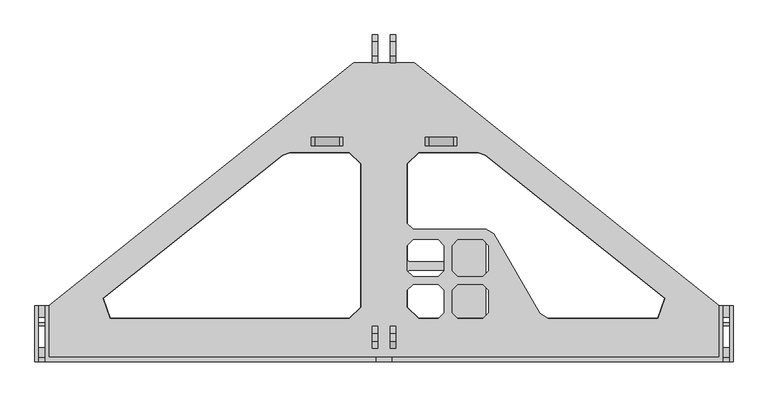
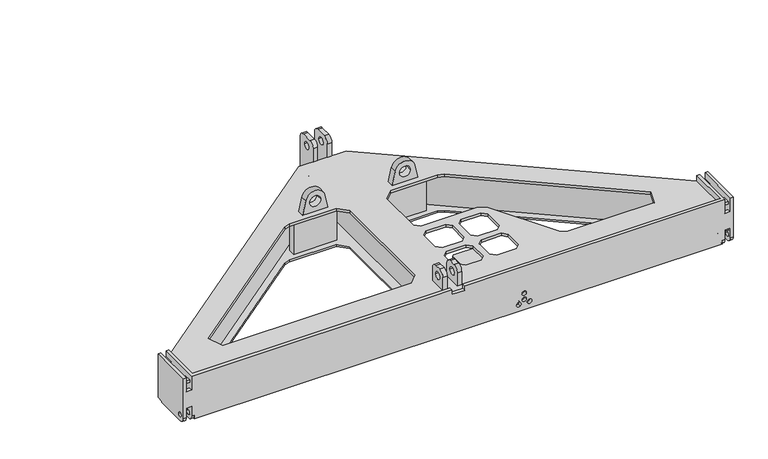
"""IFC4 building model written with IfcOpenShell, lengths in millimetres: proxy geometry, d&b SL-Series GSL Flying Frame : GSL Flying Frame."""

from ifc_helpers import new_model, si_unit, point, frame, frame_2d, origin, place, context, project, spatial, polyline, circle_curve, trimmed, segment, composite_curve, outline, extrude, source, transform, mapped, element, save
from ifc_brep_helpers import plane_surface, cylinder_surface, revolved_surface, advanced_brep


def communication_devices_4e83a63b(model_context):
    return source(origin(), model_context, "Body", "SolidModel", [
        extrude(outline(composite_curve([segment(polyline([(91.0, -130.7273729), (91.0, -73.2726271), (122.5260008, -79.9594343)]), True, "CONTINUOUS"), segment(trimmed(circle_curve(frame_2d((117.8510972, -102.0)), 22.5308956), [point((122.5260008, -79.9594343))], [point((122.5260008, -124.0405657))], False, "CARTESIAN"), True, "CONTINUOUS"), segment(polyline([(122.5260008, -124.0405657), (91.0, -130.7273729)]), True, "CONTINUOUS")], self_intersect=False), holes=[composite_curve([segment(trimmed(circle_curve(frame_2d((115.4363577, -102.0)), 12.4025698), [point((115.4363577, -114.4025698))], [point((115.4363577, -89.5974302))], True, "CARTESIAN"), True, "CONTINUOUS"), segment(trimmed(circle_curve(frame_2d((115.4363577, -102.0)), 12.4025698), [point((115.4363577, -89.5974302))], [point((115.4363577, -114.4025698))], True, "CARTESIAN"), True, "CONTINUOUS")], self_intersect=False)]), frame((0.0, 386.75, 0.0), z_axis=(0.0, 1.0, 0.0), x_axis=(0.0, 0.0, 1.0)), (0.0, 0.0, 1.0), 15.0),
        extrude(outline(composite_curve([segment(polyline([(91.0, 130.7273729), (122.5260008, 124.0405657)]), True, "CONTINUOUS"), segment(trimmed(circle_curve(frame_2d((117.8510972, 102.0)), 22.5308956), [point((122.5260008, 124.0405657))], [point((122.5260008, 79.9594343))], False, "CARTESIAN"), True, "CONTINUOUS"), segment(polyline([(122.5260008, 79.9594343), (91.0, 73.2726271), (91.0, 130.7273729)]), True, "CONTINUOUS")], self_intersect=False), holes=[composite_curve([segment(trimmed(circle_curve(frame_2d((115.4363577, 102.0)), 12.4025698), [point((115.4363577, 114.4025698))], [point((115.4363577, 89.5974302))], True, "CARTESIAN"), True, "CONTINUOUS"), segment(trimmed(circle_curve(frame_2d((115.4363577, 102.0)), 12.4025698), [point((115.4363577, 89.5974302))], [point((115.4363577, 114.4025698))], True, "CARTESIAN"), True, "CONTINUOUS")], self_intersect=False)]), frame((0.0, 386.75, 0.0), z_axis=(0.0, 1.0, 0.0), x_axis=(0.0, 0.0, 1.0)), (0.0, 0.0, 1.0), 15.0),
        extrude(outline(polyline([(44.2300761, 529.7976753), (587.9035494, 96.8494631), (584.7888141, 92.9381432), (41.1153407, 525.8863553), (44.2300761, 529.7976753)])), frame((0.0, 0.0, 4.0), z_axis=(0.0, 0.0, 1.0), x_axis=(1.0, 0.0, 0.0)), (0.0, 0.0, 1.0), 80.75),
        extrude(outline(polyline([(31.7711347, 514.1523955), (575.444608, 81.2041833), (572.3298727, 77.2928633), (28.6563994, 510.2410755), (31.7711347, 514.1523955)])), frame((0.0, 0.0, 4.0), z_axis=(0.0, 0.0, 1.0), x_axis=(1.0, 0.0, 0.0)), (0.0, 0.0, 1.0), 80.75),
        extrude(outline(polyline([(-44.2300761, 529.7976753), (-41.1153407, 525.8863553), (-584.7888141, 92.9381432), (-587.9035494, 96.8494631), (-44.2300761, 529.7976753)])), frame((0.0, 0.0, 4.0), z_axis=(0.0, 0.0, 1.0), x_axis=(1.0, 0.0, 0.0)), (0.0, 0.0, 1.0), 80.75),
        extrude(outline(polyline([(-31.7711347, 514.1523955), (-28.6563994, 510.2410755), (-572.3298727, 77.2928633), (-575.444608, 81.2041833), (-31.7711347, 514.1523955)])), frame((0.0, 0.0, 4.0), z_axis=(0.0, 0.0, 1.0), x_axis=(1.0, 0.0, 0.0)), (0.0, 0.0, 1.0), 80.75),
        extrude(outline(polyline([(-53.0, 401.75), (-53.0, 386.75), (-151.0, 386.75), (-151.0, 401.75), (-53.0, 401.75)])), frame((0.0, 0.0, 4.0), z_axis=(0.0, 0.0, 1.0), x_axis=(1.0, 0.0, 0.0)), (0.0, 0.0, 1.0), 80.75),
        extrude(outline(polyline([(53.0, 401.75), (151.0, 401.75), (151.0, 386.75), (53.0, 386.75), (53.0, 401.75)])), frame((0.0, 0.0, 4.0), z_axis=(0.0, 0.0, 1.0), x_axis=(1.0, 0.0, 0.0)), (0.0, 0.0, 1.0), 80.75),
        extrude(outline(composite_curve([segment(trimmed(circle_curve(frame_2d((572.5, 123.0)), 12.5), [point((572.5, 135.5))], [point((585.0, 123.0))], False, "CARTESIAN"), True, "CONTINUOUS"), segment(polyline([(585.0, 123.0), (585.0, 14.0)]), True, "CONTINUOUS"), segment(trimmed(circle_curve(frame_2d((575.0, 14.0)), 10.0), [point((585.0, 14.0))], [point((575.0, 4.0))], False, "CARTESIAN"), True, "CONTINUOUS"), segment(polyline([(575.0, 4.0), (70.25, 4.0), (70.25, 85.0), (535.0, 85.0), (535.0, 123.0)]), True, "CONTINUOUS"), segment(trimmed(circle_curve(frame_2d((547.5, 123.0)), 12.5), [point((535.0, 123.0))], [point((547.5, 135.5))], False, "CARTESIAN"), True, "CONTINUOUS"), segment(polyline([(547.5, 135.5), (572.5, 135.5)]), True, "CONTINUOUS")], self_intersect=False), holes=[composite_curve([segment(trimmed(circle_curve(frame_2d((560.0045722, 115.5)), 8.2930381), [point((568.2976103, 115.5))], [point((551.711534, 115.5))], True, "CARTESIAN"), True, "CONTINUOUS"), segment(trimmed(circle_curve(frame_2d((560.0045722, 115.5)), 8.2930381), [point((551.711534, 115.5))], [point((568.2976103, 115.5))], True, "CARTESIAN"), True, "CONTINUOUS")], self_intersect=False), composite_curve([segment(trimmed(circle_curve(frame_2d((560.0045722, 28.9375)), 8.2930381), [point((568.2976103, 28.9375))], [point((551.711534, 28.9375))], True, "CARTESIAN"), True, "CONTINUOUS"), segment(trimmed(circle_curve(frame_2d((560.0045722, 28.9375)), 8.2930381), [point((551.711534, 28.9375))], [point((568.2976103, 28.9375))], True, "CARTESIAN"), True, "CONTINUOUS")], self_intersect=False)]), frame((-21.25, 0.0, 0.0), z_axis=(1.0, 0.0, 0.0), x_axis=(0.0, 1.0, 0.0)), (0.0, 0.0, 1.0), 10.0),
        extrude(outline(composite_curve([segment(polyline([(64.0, 91.0), (24.0, 91.0), (24.0, 123.0091443)]), True, "CONTINUOUS"), segment(trimmed(circle_curve(frame_2d((36.4908557, 123.0091443)), 12.4908557), [point((24.0, 123.0091443))], [point((36.4908557, 135.5))], False, "CARTESIAN"), True, "CONTINUOUS"), segment(polyline([(36.4908557, 135.5), (51.5, 135.5)]), True, "CONTINUOUS"), segment(trimmed(circle_curve(frame_2d((51.5, 123.0)), 12.5), [point((51.5, 135.5))], [point((64.0, 123.0))], False, "CARTESIAN"), True, "CONTINUOUS"), segment(polyline([(64.0, 123.0), (64.0, 91.0)]), True, "CONTINUOUS")], self_intersect=False), holes=[composite_curve([segment(trimmed(circle_curve(frame_2d((43.9954278, 115.5)), 8.2930381), [point((35.7023897, 115.5))], [point((52.288466, 115.5))], True, "CARTESIAN"), True, "CONTINUOUS"), segment(trimmed(circle_curve(frame_2d((43.9954278, 115.5)), 8.2930381), [point((52.288466, 115.5))], [point((35.7023897, 115.5))], True, "CARTESIAN"), True, "CONTINUOUS")], self_intersect=False)]), frame((-21.25, 0.0, 0.0), z_axis=(1.0, 0.0, 0.0), x_axis=(0.0, 1.0, 0.0)), (0.0, 0.0, 1.0), 10.0),
        extrude(outline(composite_curve([segment(trimmed(circle_curve(frame_2d((572.5, 123.0)), 12.5), [point((572.5, 135.5))], [point((585.0, 123.0))], False, "CARTESIAN"), True, "CONTINUOUS"), segment(polyline([(585.0, 123.0), (585.0, 14.0)]), True, "CONTINUOUS"), segment(trimmed(circle_curve(frame_2d((575.0, 14.0)), 10.0), [point((585.0, 14.0))], [point((575.0, 4.0))], False, "CARTESIAN"), True, "CONTINUOUS"), segment(polyline([(575.0, 4.0), (70.25, 4.0), (70.25, 85.0), (535.0, 85.0), (535.0, 123.0)]), True, "CONTINUOUS"), segment(trimmed(circle_curve(frame_2d((547.5, 123.0)), 12.5), [point((535.0, 123.0))], [point((547.5, 135.5))], False, "CARTESIAN"), True, "CONTINUOUS"), segment(polyline([(547.5, 135.5), (572.5, 135.5)]), True, "CONTINUOUS")], self_intersect=False), holes=[composite_curve([segment(trimmed(circle_curve(frame_2d((560.0045722, 115.5)), 8.2930381), [point((568.2976103, 115.5))], [point((551.711534, 115.5))], True, "CARTESIAN"), True, "CONTINUOUS"), segment(trimmed(circle_curve(frame_2d((560.0045722, 115.5)), 8.2930381), [point((551.711534, 115.5))], [point((568.2976103, 115.5))], True, "CARTESIAN"), True, "CONTINUOUS")], self_intersect=False), composite_curve([segment(trimmed(circle_curve(frame_2d((560.0045722, 28.9375)), 8.2930381), [point((568.2976103, 28.9375))], [point((551.711534, 28.9375))], True, "CARTESIAN"), True, "CONTINUOUS"), segment(trimmed(circle_curve(frame_2d((560.0045722, 28.9375)), 8.2930381), [point((551.711534, 28.9375))], [point((568.2976103, 28.9375))], True, "CARTESIAN"), True, "CONTINUOUS")], self_intersect=False)]), frame((11.25, 0.0, 0.0), z_axis=(1.0, 0.0, 0.0), x_axis=(0.0, 1.0, 0.0)), (0.0, 0.0, 1.0), 10.0),
        extrude(outline(composite_curve([segment(polyline([(64.0, 91.0), (24.0, 91.0), (24.0, 123.0091443)]), True, "CONTINUOUS"), segment(trimmed(circle_curve(frame_2d((36.4908557, 123.0091443)), 12.4908557), [point((24.0, 123.0091443))], [point((36.4908557, 135.5))], False, "CARTESIAN"), True, "CONTINUOUS"), segment(polyline([(36.4908557, 135.5), (51.5, 135.5)]), True, "CONTINUOUS"), segment(trimmed(circle_curve(frame_2d((51.5, 123.0)), 12.5), [point((51.5, 135.5))], [point((64.0, 123.0))], False, "CARTESIAN"), True, "CONTINUOUS"), segment(polyline([(64.0, 123.0), (64.0, 91.0)]), True, "CONTINUOUS")], self_intersect=False), holes=[composite_curve([segment(trimmed(circle_curve(frame_2d((43.9954278, 115.5)), 8.2930381), [point((35.7023897, 115.5))], [point((52.288466, 115.5))], True, "CARTESIAN"), True, "CONTINUOUS"), segment(trimmed(circle_curve(frame_2d((43.9954278, 115.5)), 8.2930381), [point((52.288466, 115.5))], [point((35.7023897, 115.5))], True, "CARTESIAN"), True, "CONTINUOUS")], self_intersect=False)]), frame((11.25, 0.0, 0.0), z_axis=(1.0, 0.0, 0.0), x_axis=(0.0, 1.0, 0.0)), (0.0, 0.0, 1.0), 10.0),
        advanced_brep(
        [(600.25, 19.1, 11.0), (600.25, 8.9, 11.0), (-600.25, 0.0, 0.0), (-600.25, 4.0627461, 0.0), (-600.25, 78.0, 0.0), (-600.0, 78.0, 0.0), (-600.0, 100.0, 0.0), (-53.75, 535.0, 0.0), (-11.0, 535.0, 0.0), (-11.0, 523.0, 0.0), (11.0, 523.0, 0.0), (11.0, 535.0, 0.0), (53.75, 535.0, 0.0), (600.0, 100.0, 0.0), (600.0, 78.0, 0.0), (600.25, 78.0, 0.0), (600.25, 4.0627461, 0.0), (600.25, 0.0, 0.0), (502.6013378, 113.6452798, 0.0), (181.1300734, 369.6452798, 0.0), (168.6711321, 374.0, 0.0), (62.0, 374.0, 0.0), (42.0, 354.0, 0.0), (42.0, 182.0, 0.0), (45.0, 179.0, 0.0), (114.5, 179.0, 0.0), (117.5, 182.0, 0.0), (117.5, 225.0, 0.0), (120.5, 228.0, 0.0), (179.5, 228.0, 0.0), (182.5, 225.0, 0.0), (182.5, 81.0, 0.0), (185.5, 78.0, 0.0), (490.1423964, 78.0, 0.0), (114.5, 78.0, 0.0), (117.5, 81.0, 0.0), (117.5, 161.0, 0.0), (114.5, 164.0, 0.0), (45.0, 164.0, 0.0), (42.0, 161.0, 0.0), (42.0, 98.0, 0.0), (62.0, 78.0, 0.0), (-62.0, 78.0, 0.0), (-42.0, 98.0, 0.0), (-42.0, 354.0, 0.0), (-62.0, 374.0, 0.0), (-168.6711321, 374.0, 0.0), (-181.1300734, 369.6452798, 0.0), (-502.6013378, 113.6452798, 0.0), (-490.1423964, 78.0, 0.0), (-600.25, 78.0, 85.0), (600.25, 78.0, 85.0), (600.0, 78.0, 4.0), (490.1423964, 78.0, 4.0), (185.5, 78.0, 4.0), (114.5, 78.0, 4.0), (62.0, 78.0, 4.0), (-62.0, 78.0, 4.0), (-490.1423964, 78.0, 4.0), (-600.0, 78.0, 4.0), (155.0, 8.0, 39.9561632), (145.0, 8.0, 39.9561632), (155.0, 8.0, 24.9561632), (145.0, 8.0, 24.9561632), (159.4193985, 8.0, 12.2567564), (165.1551628, 8.0, 20.4482769), (140.5806015, 8.0, 12.2567564), (134.8448372, 8.0, 20.4482769), (-600.25, 8.0, 85.0), (600.25, 8.0, 85.0), (15.0, 8.0, 94.0), (-15.0, 8.0, 94.0), (-15.0, 0.0, 94.0), (15.0, 0.0, 94.0), (-15.0, 8.0, 105.0), (-15.0, 0.0, 105.0), (-600.25, 0.0, 9.0), (-600.25, 19.1, 11.0), (-600.25, 8.9, 11.0), (-600.25, 8.0, 105.0), (-600.25, 100.0, 105.0), (-606.25, 100.0, 105.0), (-606.25, 0.0, 105.0), (502.6013378, 113.6452798, 4.0), (600.0, 100.0, 4.0), (53.75, 535.0, 4.0), (11.0, 535.0, 4.0), (11.0, 523.0, 4.0), (-11.0, 523.0, 4.0), (-11.0, 535.0, 4.0), (-53.75, 535.0, 4.0), (-600.0, 100.0, 4.0), (-502.6013378, 113.6452798, 4.0), (-181.1300734, 369.6452798, 4.0), (-168.6711321, 374.0, 4.0), (-62.0, 374.0, 4.0), (-42.0, 354.0, 4.0), (-42.0, 98.0, 4.0), (42.0, 98.0, 4.0), (42.0, 161.0, 4.0), (45.0, 164.0, 4.0), (114.5, 164.0, 4.0), (117.5, 161.0, 4.0), (117.5, 81.0, 4.0), (182.5, 81.0, 4.0), (182.5, 225.0, 4.0), (179.5, 228.0, 4.0), (120.5, 228.0, 4.0), (117.5, 225.0, 4.0), (117.5, 182.0, 4.0), (114.5, 179.0, 4.0), (45.0, 179.0, 4.0), (42.0, 182.0, 4.0), (42.0, 354.0, 4.0), (62.0, 374.0, 4.0), (168.6711321, 374.0, 4.0), (181.1300734, 369.6452798, 4.0), (618.75, 0.0, 105.0), (618.75, 100.0, 105.0), (618.75, 100.0, 91.25), (618.75, 80.0, 91.25), (618.75, 80.0, 84.75), (618.75, 100.0, 84.75), (618.75, 100.0, 4.25), (618.75, 80.0, 4.25), (618.75, 80.0, 0.0), (618.75, 84.75, 0.0), (618.75, 84.75, -3.0), (618.75, 12.0, -3.0), (618.75, 0.0, 9.0), (618.75, 0.0, 32.25), (618.75, 8.0, 32.25), (618.75, 8.0, 71.75), (618.75, 0.0, 71.75), (618.75, 70.25, 8.0), (618.75, 70.25, 81.0), (618.75, 64.25, 81.0), (618.75, 64.25, 8.0), (618.75, 8.0, 91.0), (618.75, 8.0, 85.0), (618.75, 25.0, 85.0), (618.75, 25.0, 91.0), (618.75, 19.1, 11.0), (618.75, 8.9, 11.0), (624.75, 0.0, 105.0), (624.75, 0.0, 9.0), (624.75, 12.0, -3.0), (624.75, 84.75, -3.0), (624.75, 84.75, 0.0), (624.75, 100.0, 0.0), (624.75, 100.0, 105.0), (624.75, 19.1, 11.0), (624.75, 8.9, 11.0), (606.25, 80.0, 0.0), (606.25, 84.75, 0.0), (600.25, 84.75, 0.0), (600.25, 100.0, 0.0), (600.25, 100.0, 105.0), (606.25, 100.0, 105.0), (606.25, 100.0, 91.25), (606.25, 100.0, 84.75), (606.25, 100.0, 4.25), (600.25, 84.75, -3.0), (600.25, 12.0, -3.0), (600.25, 8.0, 105.0), (606.25, 0.0, 9.0), (606.25, 12.0, -3.0), (606.25, 84.75, -3.0), (606.25, 80.0, 4.25), (606.25, 80.0, 84.75), (606.25, 80.0, 91.25), (606.25, 0.0, 105.0), (606.25, 0.0, 71.75), (606.25, 8.0, 71.75), (606.25, 8.0, 32.25), (606.25, 0.0, 32.25), (606.25, 70.25, 81.0), (606.25, 70.25, 8.0), (606.25, 64.25, 8.0), (606.25, 64.25, 81.0), (606.25, 8.0, 85.0), (606.25, 8.0, 91.0), (606.25, 25.0, 91.0), (606.25, 25.0, 85.0), (606.25, 19.1, 11.0), (606.25, 8.9, 11.0), (600.25, 0.0, 9.0), (-600.25, 12.0, -3.0), (-600.25, 84.75, -3.0), (-600.25, 84.75, 0.0), (-600.25, 100.0, 0.0), (-606.25, 100.0, 91.25), (-606.25, 80.0, 91.25), (-606.25, 80.0, 84.75), (-606.25, 100.0, 84.75), (-606.25, 100.0, 4.25), (-606.25, 80.0, 4.25), (-606.25, 80.0, 0.0), (-606.25, 84.75, 0.0), (-606.25, 84.75, -3.0), (-606.25, 12.0, -3.0), (-606.25, 0.0, 9.0), (-606.25, 0.0, 32.25), (-606.25, 8.0, 32.25), (-606.25, 8.0, 71.75), (-606.25, 0.0, 71.75), (-606.25, 70.25, 8.0), (-606.25, 70.25, 81.0), (-606.25, 64.25, 81.0), (-606.25, 64.25, 8.0), (-606.25, 8.0, 91.0), (-606.25, 8.0, 85.0), (-606.25, 25.0, 85.0), (-606.25, 25.0, 91.0), (-606.25, 19.1, 11.0), (-606.25, 8.9, 11.0), (-618.75, 80.0, 0.0), (-618.75, 84.75, 0.0), (-624.75, 84.75, 0.0), (-624.75, 100.0, 0.0), (-624.75, 100.0, 105.0), (-618.75, 100.0, 105.0), (-618.75, 100.0, 91.25), (-618.75, 100.0, 84.75), (-618.75, 100.0, 4.25), (-618.75, 80.0, 91.25), (-618.75, 80.0, 84.75), (-618.75, 70.25, 8.0), (-618.75, 70.25, 81.0), (-618.75, 64.25, 81.0), (-618.75, 64.25, 8.0), (-618.75, 80.0, 4.25), (-618.75, 8.0, 91.0), (-618.75, 8.0, 85.0), (-618.75, 25.0, 85.0), (-618.75, 25.0, 91.0), (-618.75, 0.0, 32.25), (-618.75, 8.0, 32.25), (-618.75, 8.0, 71.75), (-618.75, 0.0, 71.75), (-618.75, 0.0, 9.0), (-618.75, 12.0, -3.0), (-618.75, 84.75, -3.0), (-618.75, 0.0, 105.0), (-618.75, 19.1, 11.0), (-618.75, 8.9, 11.0), (-624.75, 0.0, 105.0), (-624.75, 84.75, -3.0), (-624.75, 12.0, -3.0), (-624.75, 0.0, 9.0), (-624.75, 19.1, 11.0), (-624.75, 8.9, 11.0), (15.0, 8.0, 105.0), (15.0, 0.0, 105.0), (145.0, 0.0, 39.9561632), (155.0, 0.0, 39.9561632), (145.0, 0.0, 24.9561632), (155.0, 0.0, 24.9561632), (165.1551628, 0.0, 20.4482769), (159.4193985, 0.0, 12.2567564), (134.8448372, 0.0, 20.4482769), (140.5806015, 0.0, 12.2567564)],
        [
            (0, 1, circle_curve(frame((600.25, 14.0, 11.0), z_axis=(1.0, 0.0, 0.0), x_axis=(0.0, -1.0, 0.0)), 5.1)),
            (1, 0, circle_curve(frame((600.25, 14.0, 11.0), z_axis=(1.0, 0.0, 0.0), x_axis=(0.0, -1.0, 0.0)), 5.1)),
            (2, 3),
            (3, 4),
            (4, 5),
            (5, 6),
            (6, 7),
            (7, 8),
            (8, 9),
            (9, 10),
            (10, 11),
            (11, 12),
            (12, 13),
            (13, 14),
            (14, 15),
            (15, 16),
            (16, 17),
            (17, 2),
            (18, 19),
            (19, 20),
            (20, 21),
            (21, 22),
            (22, 23),
            (23, 24),
            (24, 25),
            (25, 26),
            (26, 27),
            (27, 28),
            (28, 29),
            (29, 30),
            (30, 31),
            (31, 32),
            (32, 33),
            (33, 18),
            (34, 35),
            (35, 36),
            (36, 37),
            (37, 38),
            (38, 39),
            (39, 40),
            (40, 41),
            (41, 34),
            (42, 43),
            (43, 44),
            (44, 45),
            (45, 46),
            (46, 47),
            (47, 48),
            (48, 49),
            (49, 42),
            (50, 51),
            (51, 15),
            (14, 52),
            (52, 53),
            (53, 33),
            (32, 54),
            (54, 55),
            (55, 34),
            (41, 56),
            (56, 57),
            (57, 42),
            (49, 58),
            (58, 59),
            (59, 5),
            (4, 50),
            (60, 61, circle_curve(frame((150.0, 8.0, 39.9561632), z_axis=(0.0, -1.0, 0.0), x_axis=(1.0, 0.0, 0.0)), 5.0)),
            (61, 60, circle_curve(frame((150.0, 8.0, 39.9561632), z_axis=(0.0, -1.0, 0.0), x_axis=(1.0, 0.0, 0.0)), 5.0)),
            (62, 63, circle_curve(frame((150.0, 8.0, 24.9561632), z_axis=(0.0, -1.0, 0.0), x_axis=(1.0, 0.0, 0.0)), 5.0)),
            (63, 62, circle_curve(frame((150.0, 8.0, 24.9561632), z_axis=(0.0, -1.0, 0.0), x_axis=(1.0, 0.0, 0.0)), 5.0)),
            (64, 65, circle_curve(frame((162.2872807, 8.0, 16.3525166), z_axis=(0.0, -1.0, 0.0), x_axis=(-0.5735764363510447, 0.0, -0.8191520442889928)), 5.0)),
            (65, 64, circle_curve(frame((162.2872807, 8.0, 16.3525166), z_axis=(0.0, -1.0, 0.0), x_axis=(-0.5735764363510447, 0.0, -0.8191520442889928)), 5.0)),
            (66, 67, circle_curve(frame((137.7127193, 8.0, 16.3525166), z_axis=(0.0, -1.0, 0.0), x_axis=(0.5735764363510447, 0.0, -0.8191520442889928)), 5.0)),
            (67, 66, circle_curve(frame((137.7127193, 8.0, 16.3525166), z_axis=(0.0, -1.0, 0.0), x_axis=(0.5735764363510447, 0.0, -0.8191520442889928)), 5.0)),
            (50, 68),
            (68, 69),
            (69, 51),
            (70, 71),
            (71, 72),
            (72, 73),
            (73, 70),
            (74, 75),
            (75, 72),
            (71, 74),
            (2, 76),
            (76, 3, circle_curve(frame((-600.25, 12.0, 9.0), z_axis=(1.0, 0.0, 0.0), x_axis=(0.0, -1.0, 0.0)), 12.0)),
            (77, 78, circle_curve(frame((-600.25, 14.0, 11.0), z_axis=(-1.0, 0.0, 0.0), x_axis=(0.0, -1.0, 0.0)), 5.1)),
            (78, 77, circle_curve(frame((-600.25, 14.0, 11.0), z_axis=(-1.0, 0.0, 0.0), x_axis=(0.0, -1.0, 0.0)), 5.1)),
            (74, 79),
            (79, 80),
            (80, 81),
            (81, 82),
            (82, 75),
            (83, 53),
            (52, 84),
            (84, 85),
            (85, 86),
            (86, 87),
            (87, 88),
            (88, 89),
            (89, 90),
            (90, 91),
            (91, 59),
            (58, 92),
            (92, 93),
            (93, 94),
            (94, 95),
            (95, 96),
            (96, 97),
            (97, 57),
            (56, 98),
            (98, 99),
            (99, 100),
            (100, 101),
            (101, 102),
            (102, 103),
            (103, 55),
            (54, 104),
            (104, 105),
            (105, 106),
            (106, 107),
            (107, 108),
            (108, 109),
            (109, 110),
            (110, 111),
            (111, 112),
            (112, 113),
            (113, 114),
            (114, 115),
            (115, 116),
            (116, 83),
            (83, 18),
            (22, 113),
            (112, 23),
            (21, 114),
            (20, 115),
            (19, 116),
            (11, 86),
            (85, 12),
            (6, 91),
            (90, 7),
            (13, 84),
            (48, 92),
            (47, 93),
            (46, 94),
            (45, 95),
            (44, 96),
            (43, 97),
            (31, 104),
            (30, 105),
            (29, 106),
            (28, 107),
            (27, 108),
            (26, 109),
            (25, 110),
            (24, 111),
            (10, 87),
            (9, 88),
            (8, 89),
            (37, 101),
            (100, 38),
            (36, 102),
            (35, 103),
            (40, 98),
            (39, 99),
            (117, 118),
            (118, 119),
            (119, 120),
            (120, 121),
            (121, 122),
            (122, 123),
            (123, 124),
            (124, 125),
            (125, 126),
            (126, 127),
            (127, 128),
            (128, 129, circle_curve(frame((618.75, 12.0, 9.0), z_axis=(-1.0, 0.0, 0.0), x_axis=(0.0, -1.0, 0.0)), 12.0)),
            (129, 130),
            (130, 131),
            (131, 132),
            (132, 133),
            (133, 117),
            (134, 135),
            (135, 136),
            (136, 137),
            (137, 134),
            (138, 139),
            (139, 140),
            (140, 141),
            (141, 138),
            (142, 143, circle_curve(frame((618.75, 14.0, 11.0), z_axis=(1.0, 0.0, 0.0), x_axis=(0.0, -1.0, 0.0)), 5.1)),
            (143, 142, circle_curve(frame((618.75, 14.0, 11.0), z_axis=(1.0, 0.0, 0.0), x_axis=(0.0, -1.0, 0.0)), 5.1)),
            (144, 145),
            (145, 146, circle_curve(frame((624.75, 12.0, 9.0), z_axis=(1.0, 0.0, 0.0), x_axis=(0.0, -1.0, 0.0)), 12.0)),
            (146, 147),
            (147, 148),
            (148, 149),
            (149, 150),
            (150, 144),
            (151, 152, circle_curve(frame((624.75, 14.0, 11.0), z_axis=(-1.0, 0.0, 0.0), x_axis=(0.0, -1.0, 0.0)), 5.1)),
            (152, 151, circle_curve(frame((624.75, 14.0, 11.0), z_axis=(-1.0, 0.0, 0.0), x_axis=(0.0, -1.0, 0.0)), 5.1)),
            (128, 146),
            (145, 129),
            (127, 147),
            (126, 148),
            (125, 153),
            (153, 154),
            (154, 155),
            (155, 156),
            (156, 149),
            (156, 157),
            (157, 158),
            (158, 159),
            (159, 119),
            (118, 150),
            (122, 160),
            (160, 161),
            (161, 123),
            (117, 144),
            (155, 162),
            (162, 163),
            (163, 16, circle_curve(frame((600.25, 12.0, 9.0), z_axis=(-1.0, 0.0, 0.0), x_axis=(0.0, -1.0, 0.0)), 12.0)),
            (69, 164),
            (164, 157),
            (165, 166, circle_curve(frame((606.25, 12.0, 9.0), z_axis=(1.0, 0.0, 0.0), x_axis=(0.0, -1.0, 0.0)), 12.0)),
            (166, 167),
            (167, 154),
            (153, 168),
            (168, 161),
            (160, 169),
            (169, 170),
            (170, 159),
            (158, 171),
            (171, 172),
            (172, 173),
            (173, 174),
            (174, 175),
            (175, 165),
            (176, 177),
            (177, 178),
            (178, 179),
            (179, 176),
            (180, 181),
            (181, 182),
            (182, 183),
            (183, 180),
            (184, 185, circle_curve(frame((606.25, 14.0, 11.0), z_axis=(-1.0, 0.0, 0.0), x_axis=(0.0, -1.0, 0.0)), 5.1)),
            (185, 184, circle_curve(frame((606.25, 14.0, 11.0), z_axis=(-1.0, 0.0, 0.0), x_axis=(0.0, -1.0, 0.0)), 5.1)),
            (165, 186),
            (186, 16, circle_curve(frame((600.25, 12.0, 9.0), z_axis=(1.0, 0.0, 0.0), x_axis=(0.0, -1.0, 0.0)), 12.0)),
            (163, 166),
            (162, 167),
            (169, 121),
            (120, 170),
            (176, 135),
            (134, 177),
            (179, 136),
            (178, 137),
            (168, 124),
            (180, 139),
            (138, 181),
            (183, 140),
            (182, 141),
            (174, 131),
            (130, 175),
            (173, 132),
            (172, 133),
            (187, 188),
            (188, 189),
            (189, 190),
            (190, 80),
            (79, 68),
            (3, 187, circle_curve(frame((-600.25, 12.0, 9.0), z_axis=(1.0, 0.0, 0.0), x_axis=(0.0, -1.0, 0.0)), 12.0)),
            (81, 191),
            (191, 192),
            (192, 193),
            (193, 194),
            (194, 195),
            (195, 196),
            (196, 197),
            (197, 198),
            (198, 199),
            (199, 200),
            (200, 201, circle_curve(frame((-606.25, 12.0, 9.0), z_axis=(-1.0, 0.0, 0.0), x_axis=(0.0, -1.0, 0.0)), 12.0)),
            (201, 202),
            (202, 203),
            (203, 204),
            (204, 205),
            (205, 82),
            (206, 207),
            (207, 208),
            (208, 209),
            (209, 206),
            (210, 211),
            (211, 212),
            (212, 213),
            (213, 210),
            (214, 215, circle_curve(frame((-606.25, 14.0, 11.0), z_axis=(1.0, 0.0, 0.0), x_axis=(0.0, -1.0, 0.0)), 5.1)),
            (215, 214, circle_curve(frame((-606.25, 14.0, 11.0), z_axis=(1.0, 0.0, 0.0), x_axis=(0.0, -1.0, 0.0)), 5.1)),
            (200, 187),
            (76, 201),
            (199, 188),
            (198, 189),
            (197, 216),
            (216, 217),
            (217, 218),
            (218, 219),
            (219, 190),
            (219, 220),
            (220, 221),
            (221, 222),
            (222, 191),
            (194, 223),
            (223, 224),
            (224, 195),
            (192, 225),
            (225, 226),
            (226, 193),
            (226, 223),
            (222, 225),
            (206, 227),
            (227, 228),
            (228, 207),
            (228, 229),
            (229, 208),
            (229, 230),
            (230, 209),
            (230, 227),
            (224, 231),
            (231, 196),
            (231, 216),
            (210, 232),
            (232, 233),
            (233, 211),
            (233, 234),
            (234, 212),
            (234, 235),
            (235, 213),
            (235, 232),
            (202, 236),
            (236, 237),
            (237, 203),
            (237, 238),
            (238, 204),
            (238, 239),
            (239, 205),
            (240, 241, circle_curve(frame((-618.75, 12.0, 9.0), z_axis=(1.0, 0.0, 0.0), x_axis=(0.0, -1.0, 0.0)), 12.0)),
            (241, 242),
            (242, 217),
            (221, 243),
            (243, 239),
            (236, 240),
            (244, 245, circle_curve(frame((-618.75, 14.0, 11.0), z_axis=(-1.0, 0.0, 0.0), x_axis=(0.0, -1.0, 0.0)), 5.1)),
            (245, 244, circle_curve(frame((-618.75, 14.0, 11.0), z_axis=(-1.0, 0.0, 0.0), x_axis=(0.0, -1.0, 0.0)), 5.1)),
            (246, 220),
            (218, 247),
            (247, 248),
            (248, 249, circle_curve(frame((-624.75, 12.0, 9.0), z_axis=(-1.0, 0.0, 0.0), x_axis=(0.0, -1.0, 0.0)), 12.0)),
            (249, 246),
            (250, 251, circle_curve(frame((-624.75, 14.0, 11.0), z_axis=(1.0, 0.0, 0.0), x_axis=(0.0, -1.0, 0.0)), 5.1)),
            (251, 250, circle_curve(frame((-624.75, 14.0, 11.0), z_axis=(1.0, 0.0, 0.0), x_axis=(0.0, -1.0, 0.0)), 5.1)),
            (240, 249),
            (248, 241),
            (247, 242),
            (246, 243),
            (244, 250),
            (251, 245),
            (142, 151),
            (152, 143),
            (215, 78),
            (77, 214),
            (185, 1),
            (0, 184),
            (70, 252),
            (252, 164),
            (17, 186),
            (171, 253),
            (253, 73),
            (254, 255, circle_curve(frame((150.0, 0.0, 39.9561632), z_axis=(0.0, 1.0, 0.0), x_axis=(1.0, 0.0, 0.0)), 5.0)),
            (255, 254, circle_curve(frame((150.0, 0.0, 39.9561632), z_axis=(0.0, 1.0, 0.0), x_axis=(1.0, 0.0, 0.0)), 5.0)),
            (256, 257, circle_curve(frame((150.0, 0.0, 24.9561632), z_axis=(0.0, 1.0, 0.0), x_axis=(1.0, 0.0, 0.0)), 5.0)),
            (257, 256, circle_curve(frame((150.0, 0.0, 24.9561632), z_axis=(0.0, 1.0, 0.0), x_axis=(1.0, 0.0, 0.0)), 5.0)),
            (258, 259, circle_curve(frame((162.2872807, 0.0, 16.3525166), z_axis=(0.0, 1.0, 0.0), x_axis=(-0.5735764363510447, 0.0, -0.8191520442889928)), 5.0)),
            (259, 258, circle_curve(frame((162.2872807, 0.0, 16.3525166), z_axis=(0.0, 1.0, 0.0), x_axis=(-0.5735764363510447, 0.0, -0.8191520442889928)), 5.0)),
            (260, 261, circle_curve(frame((137.7127193, 0.0, 16.3525166), z_axis=(0.0, 1.0, 0.0), x_axis=(0.5735764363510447, 0.0, -0.8191520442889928)), 5.0)),
            (261, 260, circle_curve(frame((137.7127193, 0.0, 16.3525166), z_axis=(0.0, 1.0, 0.0), x_axis=(0.5735764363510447, 0.0, -0.8191520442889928)), 5.0)),
            (252, 253),
            (254, 61),
            (60, 255),
            (256, 63),
            (62, 257),
            (258, 65),
            (64, 259),
            (260, 67),
            (66, 261),
        ],
        [
            plane_surface(frame((600.25, 8.0, 91.0), z_axis=(1.0, 0.0, 0.0), x_axis=(0.0, 0.0, -1.0))),
            plane_surface(frame((15.0, 78.0, 0.0), z_axis=(0.0, 0.0, -1.0), x_axis=(1.0, 0.0, 0.0))),
            plane_surface(frame((15.0, 78.0, 85.0), z_axis=(0.0, 1.0, 0.0), x_axis=(1.0, 0.0, 0.0))),
            plane_surface(frame((15.0, 8.0, 0.0), z_axis=(0.0, -1.0, 0.0), x_axis=(1.0, 0.0, 0.0))),
            plane_surface(frame((15.0, 8.0, 85.0), z_axis=(0.0, 0.0, 1.0), x_axis=(1.0, 0.0, 0.0))),
            plane_surface(frame((-15.0, 0.0, 94.0), z_axis=(0.0, 0.0, 1.0), x_axis=(1.0, 0.0, 0.0))),
            plane_surface(frame((-15.0, 535.0, 0.0), z_axis=(1.0, 0.0, 0.0), x_axis=(0.0, 1.0, 0.0))),
            plane_surface(frame((-600.25, 535.0, 0.0), z_axis=(-1.0, 0.0, 0.0), x_axis=(0.0, -1.0, 0.0))),
            plane_surface(frame((-15.0, 8.0, 105.0), z_axis=(0.0, 0.0, 1.0), x_axis=(-1.0, 0.0, 0.0))),
            plane_surface(frame((490.1423964, 78.0, 4.0), z_axis=(0.0, 0.0, 1.0), x_axis=(-0.32995151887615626, -0.9439978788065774, 0.0))),
            plane_surface(frame((502.6013378, 113.6452798, 4.0), z_axis=(-0.9439978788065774, 0.32995151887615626, 0.0), x_axis=(0.0, 0.0, -1.0))),
            plane_surface(frame((42.0, 182.0, 4.0), z_axis=(1.0, 0.0, 0.0), x_axis=(0.0, 0.0, -1.0))),
            plane_surface(frame((42.0, 354.0, 4.0), z_axis=(0.707106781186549, -0.707106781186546, 0.0), x_axis=(0.0, 0.0, -1.0))),
            plane_surface(frame((62.0, 374.0, 4.0), z_axis=(0.0, -1.0, 0.0), x_axis=(0.0, 0.0, -1.0))),
            plane_surface(frame((168.6711321, 374.0, 4.0), z_axis=(-0.3299515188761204, -0.9439978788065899, 0.0), x_axis=(0.0, 0.0, -1.0))),
            plane_surface(frame((181.1300734, 369.6452798, 4.0), z_axis=(-0.6229470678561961, -0.782263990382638, 0.0), x_axis=(0.0, 0.0, -1.0))),
            plane_surface(frame((53.75, 535.0, 4.0), z_axis=(0.0, 1.0, 0.0), x_axis=(0.0, 0.0, -1.0))),
            plane_surface(frame((-53.75, 535.0, 4.0), z_axis=(-0.6229470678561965, 0.7822639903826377, 0.0), x_axis=(0.0, 0.0, -1.0))),
            plane_surface(frame((-600.0, 100.0, 4.0), z_axis=(-1.0, 0.0, 0.0), x_axis=(0.0, 0.0, -1.0))),
            plane_surface(frame((600.0, 78.0, 4.0), z_axis=(1.0, 0.0, 0.0), x_axis=(0.0, 0.0, -1.0))),
            plane_surface(frame((600.0, 100.0, 4.0), z_axis=(0.6229470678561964, 0.7822639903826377, 0.0), x_axis=(0.0, 0.0, -1.0))),
            plane_surface(frame((-490.1423964, 78.0, 4.0), z_axis=(0.9439978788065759, 0.3299515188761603, 0.0), x_axis=(0.0, 0.0, -1.0))),
            plane_surface(frame((-502.6013378, 113.6452798, 4.0), z_axis=(0.6229470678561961, -0.782263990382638, 0.0), x_axis=(0.0, 0.0, -1.0))),
            plane_surface(frame((-181.1300734, 369.6452798, 4.0), z_axis=(0.32995151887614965, -0.9439978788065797, 0.0), x_axis=(0.0, 0.0, -1.0))),
            plane_surface(frame((-168.6711321, 374.0, 4.0), z_axis=(0.0, -1.0, 0.0), x_axis=(0.0, 0.0, -1.0))),
            plane_surface(frame((-62.0, 374.0, 4.0), z_axis=(-0.7071067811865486, -0.7071067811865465, 0.0), x_axis=(0.0, 0.0, -1.0))),
            plane_surface(frame((-42.0, 354.0, 4.0), z_axis=(-1.0, 0.0, 0.0), x_axis=(0.0, 0.0, -1.0))),
            plane_surface(frame((-42.0, 98.0, 4.0), z_axis=(-0.7071067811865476, 0.7071067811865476, 0.0), x_axis=(0.0, 0.0, -1.0))),
            plane_surface(frame((185.5, 78.0, 4.0), z_axis=(0.7071067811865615, 0.7071067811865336, 0.0), x_axis=(0.0, 0.0, -1.0))),
            plane_surface(frame((182.5, 81.0, 4.0), z_axis=(1.0, 0.0, 0.0), x_axis=(0.0, 0.0, -1.0))),
            plane_surface(frame((182.5, 225.0, 4.0), z_axis=(0.7071067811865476, 0.7071067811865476, 0.0), x_axis=(0.0, 0.0, -1.0))),
            plane_surface(frame((179.5, 228.0, 4.0), z_axis=(0.0, 1.0, 0.0), x_axis=(0.0, 0.0, -1.0))),
            plane_surface(frame((120.5, 228.0, 4.0), z_axis=(-0.7071067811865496, 0.7071067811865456, 0.0), x_axis=(0.0, 0.0, -1.0))),
            plane_surface(frame((117.5, 225.0, 4.0), z_axis=(-1.0, 0.0, 0.0), x_axis=(0.0, 0.0, -1.0))),
            plane_surface(frame((117.5, 182.0, 4.0), z_axis=(-0.7071067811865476, 0.7071067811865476, 0.0), x_axis=(0.0, 0.0, -1.0))),
            plane_surface(frame((114.5, 179.0, 4.0), z_axis=(0.0, 1.0, 0.0), x_axis=(0.0, 0.0, -1.0))),
            plane_surface(frame((45.0, 179.0, 4.0), z_axis=(0.7071067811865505, 0.7071067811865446, 0.0), x_axis=(0.0, 0.0, -1.0))),
            plane_surface(frame((11.0, 535.0, 4.0), z_axis=(-1.0, 0.0, 0.0), x_axis=(0.0, 0.0, -1.0))),
            plane_surface(frame((11.0, 523.0, 4.0), z_axis=(0.0, 1.0, 0.0), x_axis=(0.0, 0.0, -1.0))),
            plane_surface(frame((-11.0, 523.0, 4.0), z_axis=(1.0, 0.0, 0.0), x_axis=(0.0, 0.0, -1.0))),
            plane_surface(frame((-11.0, 535.0, 4.0), z_axis=(0.0, 1.0, 0.0), x_axis=(0.0, 0.0, -1.0))),
            plane_surface(frame((45.0, 164.0, 4.0), z_axis=(0.0, -1.0, 0.0), x_axis=(0.0, 0.0, -1.0))),
            plane_surface(frame((114.5, 164.0, 4.0), z_axis=(-0.7071067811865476, -0.7071067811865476, 0.0), x_axis=(0.0, 0.0, -1.0))),
            plane_surface(frame((117.5, 161.0, 4.0), z_axis=(-1.0, 0.0, 0.0), x_axis=(0.0, 0.0, -1.0))),
            plane_surface(frame((117.5, 81.0, 4.0), z_axis=(-0.7071067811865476, 0.7071067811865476, 0.0), x_axis=(0.0, 0.0, -1.0))),
            plane_surface(frame((62.0, 78.0, 4.0), z_axis=(0.7071067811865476, 0.7071067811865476, 0.0), x_axis=(0.0, 0.0, -1.0))),
            plane_surface(frame((42.0, 98.0, 4.0), z_axis=(1.0, 0.0, 0.0), x_axis=(0.0, 0.0, -1.0))),
            plane_surface(frame((42.0, 161.0, 4.0), z_axis=(0.7071067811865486, -0.7071067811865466, 0.0), x_axis=(0.0, 0.0, -1.0))),
            plane_surface(frame((618.75, 98.0, 105.0), z_axis=(-1.0, 0.0, 0.0), x_axis=(0.0, 1.0, 0.0))),
            plane_surface(frame((624.75, 98.0, 105.0), z_axis=(1.0, 0.0, 0.0), x_axis=(0.0, -1.0, 0.0))),
            cylinder_surface(frame((624.75, 12.0, 9.0), z_axis=(-1.0, 0.0, 0.0), x_axis=(0.0, -1.0, 0.0)), 12.0),
            plane_surface(frame((618.75, 84.75, -3.0), z_axis=(0.0, 0.0, -1.0), x_axis=(1.0, 0.0, 0.0))),
            plane_surface(frame((618.75, 84.75, 0.0), z_axis=(0.0, 1.0, 0.0), x_axis=(1.0, 0.0, 0.0))),
            plane_surface(frame((618.75, 100.0, 0.0), z_axis=(0.0, 0.0, -1.0), x_axis=(1.0, 0.0, 0.0))),
            plane_surface(frame((618.75, 100.0, 105.0), z_axis=(0.0, 1.0, 0.0), x_axis=(1.0, 0.0, 0.0))),
            plane_surface(frame((618.75, 0.0, 105.0), z_axis=(0.0, 0.0, 1.0), x_axis=(1.0, 0.0, 0.0))),
            plane_surface(frame((600.25, 98.0, 105.0), z_axis=(-1.0, 0.0, 0.0), x_axis=(0.0, 1.0, 0.0))),
            plane_surface(frame((606.25, 98.0, 105.0), z_axis=(1.0, 0.0, 0.0), x_axis=(0.0, -1.0, 0.0))),
            cylinder_surface(frame((606.25, 12.0, 9.0), z_axis=(-1.0, 0.0, 0.0), x_axis=(0.0, -1.0, 0.0)), 12.0),
            plane_surface(frame((600.25, 84.75, -3.0), z_axis=(0.0, 0.0, -1.0), x_axis=(1.0, 0.0, 0.0))),
            plane_surface(frame((600.25, 84.75, 0.0), z_axis=(0.0, 1.0, 0.0), x_axis=(1.0, 0.0, 0.0))),
            plane_surface(frame((606.25, 80.0, 84.75), z_axis=(0.0, -1.0, 0.0), x_axis=(1.0, 0.0, 0.0))),
            plane_surface(frame((606.25, 100.0, 84.75), z_axis=(0.0, 0.0, -1.0), x_axis=(1.0, 0.0, 0.0))),
            plane_surface(frame((606.25, 80.0, 91.25), z_axis=(0.0, 0.0, 1.0), x_axis=(1.0, 0.0, 0.0))),
            plane_surface(frame((606.25, 70.25, 81.0), z_axis=(0.0, 1.0, 0.0), x_axis=(1.0, 0.0, 0.0))),
            plane_surface(frame((606.25, 64.25, 81.0), z_axis=(0.0, 0.0, 1.0), x_axis=(1.0, 0.0, 0.0))),
            plane_surface(frame((606.25, 64.25, 8.0), z_axis=(0.0, -1.0, 0.0), x_axis=(1.0, 0.0, 0.0))),
            plane_surface(frame((606.25, 70.25, 8.0), z_axis=(0.0, 0.0, -1.0), x_axis=(1.0, 0.0, 0.0))),
            plane_surface(frame((606.25, 80.0, 4.25), z_axis=(0.0, 0.0, 1.0), x_axis=(1.0, 0.0, 0.0))),
            plane_surface(frame((606.25, 80.0, 0.0), z_axis=(0.0, -1.0, 0.0), x_axis=(1.0, 0.0, 0.0))),
            plane_surface(frame((606.25, 8.0, 85.0), z_axis=(0.0, -1.0, 0.0), x_axis=(1.0, 0.0, 0.0))),
            plane_surface(frame((606.25, 25.0, 85.0), z_axis=(0.0, 0.0, -1.0), x_axis=(1.0, 0.0, 0.0))),
            plane_surface(frame((606.25, 25.0, 91.0), z_axis=(0.0, 1.0, 0.0), x_axis=(1.0, 0.0, 0.0))),
            plane_surface(frame((606.25, 8.0, 91.0), z_axis=(0.0, 0.0, 1.0), x_axis=(1.0, 0.0, 0.0))),
            plane_surface(frame((606.25, 8.0, 32.25), z_axis=(0.0, 0.0, -1.0), x_axis=(1.0, 0.0, 0.0))),
            plane_surface(frame((606.25, 8.0, 71.75), z_axis=(0.0, 1.0, 0.0), x_axis=(1.0, 0.0, 0.0))),
            plane_surface(frame((606.25, 0.0, 71.75), z_axis=(0.0, 0.0, 1.0), x_axis=(1.0, 0.0, 0.0))),
            plane_surface(frame((-600.25, 0.0, 2808.253706), z_axis=(1.0, 0.0, 0.0), x_axis=(0.0, 0.0, -1.0))),
            plane_surface(frame((-606.25, 0.0, 2808.253706), z_axis=(-1.0, 0.0, 0.0), x_axis=(0.0, 0.0, 1.0))),
            cylinder_surface(frame((-606.25, 12.0, 9.0), z_axis=(1.0, 0.0, 0.0), x_axis=(0.0, -1.0, 0.0)), 12.0),
            plane_surface(frame((-600.25, 12.0, -3.0), z_axis=(0.0, 0.0, -1.0), x_axis=(-1.0, 0.0, 0.0))),
            plane_surface(frame((-600.25, 84.75, -3.0), z_axis=(0.0, 1.0, 0.0), x_axis=(-1.0, 0.0, 0.0))),
            plane_surface(frame((-600.25, 84.75, 0.0), z_axis=(0.0, 0.0, -1.0), x_axis=(-1.0, 0.0, 0.0))),
            plane_surface(frame((-600.25, 100.0, 0.0), z_axis=(0.0, 1.0, 0.0), x_axis=(-1.0, 0.0, 0.0))),
            plane_surface(frame((-606.25, 80.0, 91.25), z_axis=(0.0, -1.0, 0.0), x_axis=(-1.0, 0.0, 0.0))),
            plane_surface(frame((-606.25, 80.0, 84.75), z_axis=(0.0, 0.0, -1.0), x_axis=(-1.0, 0.0, 0.0))),
            plane_surface(frame((-606.25, 100.0, 91.25), z_axis=(0.0, 0.0, 1.0), x_axis=(-1.0, 0.0, 0.0))),
            plane_surface(frame((-606.25, 70.25, 8.0), z_axis=(0.0, 1.0, 0.0), x_axis=(-1.0, 0.0, 0.0))),
            plane_surface(frame((-606.25, 70.25, 81.0), z_axis=(0.0, 0.0, 1.0), x_axis=(-1.0, 0.0, 0.0))),
            plane_surface(frame((-606.25, 64.25, 81.0), z_axis=(0.0, -1.0, 0.0), x_axis=(-1.0, 0.0, 0.0))),
            plane_surface(frame((-606.25, 64.25, 8.0), z_axis=(0.0, 0.0, -1.0), x_axis=(-1.0, 0.0, 0.0))),
            plane_surface(frame((-606.25, 100.0, 4.25), z_axis=(0.0, 0.0, 1.0), x_axis=(-1.0, 0.0, 0.0))),
            plane_surface(frame((-606.25, 80.0, 4.25), z_axis=(0.0, -1.0, 0.0), x_axis=(-1.0, 0.0, 0.0))),
            plane_surface(frame((-606.25, 8.0, 91.0), z_axis=(0.0, -1.0, 0.0), x_axis=(-1.0, 0.0, 0.0))),
            plane_surface(frame((-606.25, 8.0, 85.0), z_axis=(0.0, 0.0, -1.0), x_axis=(-1.0, 0.0, 0.0))),
            plane_surface(frame((-606.25, 25.0, 85.0), z_axis=(0.0, 1.0, 0.0), x_axis=(-1.0, 0.0, 0.0))),
            plane_surface(frame((-606.25, 25.0, 91.0), z_axis=(0.0, 0.0, 1.0), x_axis=(-1.0, 0.0, 0.0))),
            plane_surface(frame((-606.25, 0.0, 32.25), z_axis=(0.0, 0.0, -1.0), x_axis=(-1.0, 0.0, 0.0))),
            plane_surface(frame((-606.25, 8.0, 32.25), z_axis=(0.0, 1.0, 0.0), x_axis=(-1.0, 0.0, 0.0))),
            plane_surface(frame((-606.25, 8.0, 71.75), z_axis=(0.0, 0.0, 1.0), x_axis=(-1.0, 0.0, 0.0))),
            plane_surface(frame((-618.75, 0.0, 2808.253706), z_axis=(1.0, 0.0, 0.0), x_axis=(0.0, 0.0, -1.0))),
            plane_surface(frame((-624.75, 0.0, 2808.253706), z_axis=(-1.0, 0.0, 0.0), x_axis=(0.0, 0.0, 1.0))),
            cylinder_surface(frame((-624.75, 12.0, 9.0), z_axis=(1.0, 0.0, 0.0), x_axis=(0.0, -1.0, 0.0)), 12.0),
            plane_surface(frame((-618.75, 12.0, -3.0), z_axis=(0.0, 0.0, -1.0), x_axis=(-1.0, 0.0, 0.0))),
            plane_surface(frame((-618.75, 84.75, -3.0), z_axis=(0.0, 1.0, 0.0), x_axis=(-1.0, 0.0, 0.0))),
            plane_surface(frame((-618.75, 100.0, 105.0), z_axis=(0.0, 0.0, 1.0), x_axis=(-1.0, 0.0, 0.0))),
            revolved_surface(polyline([(-624.75, 8.9, 11.0), (-618.75, 8.9, 11.0)]), (-624.75, 14.0, 11.0), (-1.0, 0.0, 0.0)),
            revolved_surface(polyline([(624.75, 8.9, 11.0), (618.75, 8.9, 11.0)]), (624.75, 14.0, 11.0), (1.0, 0.0, 0.0)),
            revolved_surface(polyline([(-606.25, 8.9, 11.0), (-600.25, 8.9, 11.0)]), (-606.25, 14.0, 11.0), (-1.0, 0.0, 0.0)),
            revolved_surface(polyline([(606.25, 8.9, 11.0), (600.25, 8.9, 11.0)]), (606.25, 14.0, 11.0), (1.0, 0.0, 0.0)),
            plane_surface(frame((-15.0, 8.0, 94.0), z_axis=(0.0, 1.0, 0.0), x_axis=(1.0, 0.0, 0.0))),
            plane_surface(frame((-15.0, 0.0, 0.0), z_axis=(0.0, -1.0, 0.0), x_axis=(1.0, 0.0, 0.0))),
            plane_surface(frame((600.25, 0.0, 105.0), z_axis=(0.0, 0.0, 1.0), x_axis=(1.0, 0.0, 0.0))),
            plane_surface(frame((15.0, 0.0, 105.0), z_axis=(-1.0, 0.0, 0.0), x_axis=(0.0, 1.0, 0.0))),
            plane_surface(frame((600.25, 0.0, 0.0), z_axis=(1.0, 0.0, 0.0), x_axis=(0.0, 1.0, 0.0))),
            revolved_surface(polyline([(155.0, 8.0, 39.9561632), (155.0, 0.0, 39.9561632)]), (150.0, 0.0, 39.9561632), (0.0, 1.0, 0.0)),
            revolved_surface(polyline([(155.0, 8.0, 24.9561632), (155.0, 0.0, 24.9561632)]), (150.0, 0.0, 24.9561632), (0.0, 1.0, 0.0)),
            revolved_surface(polyline([(159.41939851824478, 8.0, 12.256756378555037), (159.41939851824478, 0.0, 12.256756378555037)]), (162.2872807, 0.0, 16.3525166), (0.0, 1.0, 0.0)),
            revolved_surface(polyline([(140.58060148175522, 8.0, 12.256756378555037), (140.58060148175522, 0.0, 12.256756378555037)]), (137.7127193, 0.0, 16.3525166), (0.0, 1.0, 0.0)),
        ],
        [
            (0, [[1, 2]]),
            (1, [[3, 4, 5, 6, 7, 8, 9, 10, 11, 12, 13, 14, 15, 16, 17, 18], [19, 20, 21, 22, 23, 24, 25, 26, 27, 28, 29, 30, 31, 32, 33, 34], [35, 36, 37, 38, 39, 40, 41, 42], [43, 44, 45, 46, 47, 48, 49, 50]]),
            (2, [[51, 52, -15, 53, 54, 55, -33, 56, 57, 58, -42, 59, 60, 61, -50, 62, 63, 64, -5, 65]]),
            (3, [[66, 67]]),
            (3, [[68, 69]]),
            (3, [[70, 71]]),
            (3, [[72, 73]]),
            (4, [[-51, 74, 75, 76]]),
            (5, [[77, 78, 79, 80]]),
            (6, [[81, 82, -78, 83]]),
            (7, [[84, 85, -3]]),
            (7, [[86, 87]]),
            (8, [[-81, 88, 89, 90, 91, 92]]),
            (9, [[93, -54, 94, 95, 96, 97, 98, 99, 100, 101, 102, -63, 103, 104, 105, 106, 107, 108, 109, -60, 110, 111, 112, 113, 114, 115, 116, -57, 117, 118, 119, 120, 121, 122, 123, 124, 125, 126, 127, 128, 129, 130]]),
            (10, [[-34, -55, -93, 131]]),
            (11, [[-23, 132, -126, 133]]),
            (12, [[-22, 134, -127, -132]]),
            (13, [[-21, 135, -128, -134]]),
            (14, [[-20, 136, -129, -135]]),
            (15, [[-19, -131, -130, -136]]),
            (16, [[-12, 137, -96, 138]]),
            (17, [[-7, 139, -101, 140]]),
            (18, [[-6, -64, -102, -139]]),
            (19, [[-14, 141, -94, -53]]),
            (20, [[-13, -138, -95, -141]]),
            (21, [[-49, 142, -103, -62]]),
            (22, [[-48, 143, -104, -142]]),
            (23, [[-47, 144, -105, -143]]),
            (24, [[-46, 145, -106, -144]]),
            (25, [[-45, 146, -107, -145]]),
            (26, [[-44, 147, -108, -146]]),
            (27, [[-43, -61, -109, -147]]),
            (28, [[-32, 148, -117, -56]]),
            (29, [[-31, 149, -118, -148]]),
            (30, [[-30, 150, -119, -149]]),
            (31, [[-29, 151, -120, -150]]),
            (32, [[-28, 152, -121, -151]]),
            (33, [[-27, 153, -122, -152]]),
            (34, [[-26, 154, -123, -153]]),
            (35, [[-25, 155, -124, -154]]),
            (36, [[-24, -133, -125, -155]]),
            (37, [[-11, 156, -97, -137]]),
            (38, [[-10, 157, -98, -156]]),
            (39, [[-9, 158, -99, -157]]),
            (40, [[-8, -140, -100, -158]]),
            (41, [[-38, 159, -113, 160]]),
            (42, [[-37, 161, -114, -159]]),
            (43, [[-36, 162, -115, -161]]),
            (44, [[-35, -58, -116, -162]]),
            (45, [[-41, 163, -110, -59]]),
            (46, [[-40, 164, -111, -163]]),
            (47, [[-39, -160, -112, -164]]),
            (48, [[165, 166, 167, 168, 169, 170, 171, 172, 173, 174, 175, 176, 177, 178, 179, 180, 181], [182, 183, 184, 185], [186, 187, 188, 189], [190, 191]]),
            (49, [[192, 193, 194, 195, 196, 197, 198], [199, 200]]),
            (50, [[-176, 201, -193, 202]]),
            (51, [[-175, 203, -194, -201]]),
            (52, [[-174, 204, -195, -203]]),
            (53, [[-196, -204, -173, 205, 206, 207, 208, 209]]),
            (54, [[-197, -209, 210, 211, 212, 213, -166, 214], [215, 216, 217, -170]]),
            (55, [[-165, 218, -198, -214]]),
            (56, [[-210, -208, 219, 220, 221, -16, -52, -76, 222, 223]]),
            (57, [[224, 225, 226, -206, 227, 228, -216, 229, 230, 231, -212, 232, 233, 234, 235, 236, 237], [238, 239, 240, 241], [242, 243, 244, 245], [246, 247]]),
            (58, [[-224, 248, 249, -221, 250]]),
            (59, [[-220, 251, -225, -250]]),
            (60, [[-219, -207, -226, -251]]),
            (61, [[252, -168, 253, -230]]),
            (62, [[-252, -229, -215, -169]]),
            (63, [[-253, -167, -213, -231]]),
            (64, [[254, -182, 255, -238]]),
            (65, [[-254, -241, 256, -183]]),
            (66, [[-256, -240, 257, -184]]),
            (67, [[-255, -185, -257, -239]]),
            (68, [[258, -171, -217, -228]]),
            (69, [[-258, -227, -205, -172]]),
            (70, [[259, -186, 260, -242]]),
            (71, [[-259, -245, 261, -187]]),
            (72, [[-261, -244, 262, -188]]),
            (73, [[-260, -189, -262, -243]]),
            (74, [[263, -178, 264, -236]]),
            (75, [[-263, -235, 265, -179]]),
            (76, [[-265, -234, 266, -180]]),
            (77, [[267, 268, 269, 270, -89, 271, -74, -65, -4, 272]]),
            (78, [[-91, 273, 274, 275, 276, 277, 278, 279, 280, 281, 282, 283, 284, 285, 286, 287, 288], [289, 290, 291, 292], [293, 294, 295, 296], [297, 298]]),
            (79, [[-283, 299, -272, -85, 300]]),
            (80, [[-267, -299, -282, 301]]),
            (81, [[-268, -301, -281, 302]]),
            (82, [[-269, -302, -280, 303, 304, 305, 306, 307]]),
            (83, [[-270, -307, 308, 309, 310, 311, -273, -90], [312, 313, 314, -277]]),
            (84, [[315, 316, 317, -275]]),
            (85, [[-317, 318, -312, -276]]),
            (86, [[-315, -274, -311, 319]]),
            (87, [[320, 321, 322, -289]]),
            (88, [[-322, 323, 324, -290]]),
            (89, [[-324, 325, 326, -291]]),
            (90, [[-320, -292, -326, 327]]),
            (91, [[-314, 328, 329, -278]]),
            (92, [[-329, 330, -303, -279]]),
            (93, [[331, 332, 333, -293]]),
            (94, [[-333, 334, 335, -294]]),
            (95, [[-335, 336, 337, -295]]),
            (96, [[-331, -296, -337, 338]]),
            (97, [[339, 340, 341, -285]]),
            (98, [[-341, 342, 343, -286]]),
            (99, [[-343, 344, 345, -287]]),
            (100, [[346, 347, 348, -304, -330, -328, -313, -318, -316, -319, -310, 349, 350, -344, -342, -340, 351], [-321, -327, -325, -323], [-332, -338, -336, -334], [352, 353]]),
            (101, [[354, -308, -306, 355, 356, 357, 358], [359, 360]]),
            (102, [[-346, 361, -357, 362]]),
            (103, [[-347, -362, -356, 363]]),
            (104, [[-348, -363, -355, -305]]),
            (105, [[-349, -309, -354, 364]]),
            (106, [[-352, 365, -360, 366]]),
            (106, [[-353, -366, -359, -365]]),
            (107, [[-190, 367, -200, 368]]),
            (107, [[-191, -368, -199, -367]]),
            (108, [[-298, 369, -86, 370]]),
            (108, [[-297, -370, -87, -369]]),
            (109, [[-247, 371, -1, 372]]),
            (109, [[-246, -372, -2, -371]]),
            (110, [[-77, 373, 374, -222, -75, -271, -88, -83]]),
            (111, [[-79, -82, -92, -288, -345, -350, -364, -358, -361, -351, -339, -284, -300, -84, -18, 375, -248, -237, -264, -177, -202, -192, -218, -181, -266, -233, 376, 377], [378, 379], [380, 381], [382, 383], [384, 385]]),
            (112, [[-376, -232, -211, -223, -374, 386]]),
            (113, [[-386, -373, -80, -377]]),
            (114, [[-375, -17, -249]]),
            (115, [[-378, 387, -66, 388]]),
            (115, [[-379, -388, -67, -387]]),
            (116, [[-380, 389, -68, 390]]),
            (116, [[-381, -390, -69, -389]]),
            (117, [[-382, 391, -70, 392]]),
            (117, [[-383, -392, -71, -391]]),
            (118, [[-384, 393, -72, 394]]),
            (118, [[-385, -394, -73, -393]]),
        ],
    ),
        extrude(outline(polyline([(53.75, 535.0), (600.0, 100.0), (600.0, 8.0), (-600.0, 8.0), (-600.0, 100.0), (-53.75, 535.0), (53.75, 535.0)]), holes=[polyline([(502.6013378, 113.6452798), (181.1300734, 369.6452798), (168.6711321, 374.0), (62.0, 374.0), (42.0, 354.0), (42.0, 248.0), (52.0, 238.0), (182.0, 238.0), (197.0, 229.339746), (279.3760431, 86.660254), (294.3760431, 78.0), (490.1423964, 78.0), (502.6013378, 113.6452798)]), polyline([(-490.1423964, 78.0), (-62.0, 78.0), (-42.0, 98.0), (-42.0, 354.0), (-62.0, 374.0), (-168.6711321, 374.0), (-181.1300734, 369.6452798), (-502.6013378, 113.6452798), (-490.1423964, 78.0)]), polyline([(42.0, 98.0), (62.0, 78.0), (97.0, 78.0), (107.0, 88.0), (107.0, 128.0), (97.0, 138.0), (52.0, 138.0), (42.0, 128.0), (42.0, 98.0)]), polyline([(122.0, 128.0), (122.0, 88.0), (132.0, 78.0), (177.0, 78.0), (187.0, 88.0), (187.0, 128.0), (177.0, 138.0), (132.0, 138.0), (122.0, 128.0)]), polyline([(122.0, 163.0), (132.0, 153.0), (177.0, 153.0), (187.0, 163.0), (187.0, 208.0), (177.0, 218.0), (132.0, 218.0), (122.0, 208.0), (122.0, 163.0)]), polyline([(107.0, 163.0), (107.0, 208.0), (97.0, 218.0), (52.0, 218.0), (42.0, 208.0), (42.0, 163.0), (52.0, 153.0), (97.0, 153.0), (107.0, 163.0)])]), frame((0.0, 0.0, 85.0), z_axis=(0.0, 0.0, 1.0), x_axis=(1.0, 0.0, 0.0)), (0.0, 0.0, 1.0), 6.0),
    ])


if __name__ == "__main__":
    model = new_model("IFC4")
    model_context = context("Model", 3, world=origin())
    ifc_project = project(units=[si_unit("LENGTHUNIT", "METRE", prefix="MILLI")], contexts=[model_context])
    site = spatial("IfcSite", under=ifc_project)
    building = spatial("IfcBuilding", under=site)
    placement = place(None, origin())
    communication_devices_shape = communication_devices_4e83a63b(model_context)
    element("IfcBuildingElementProxy", 1, Name="d&b SL-Series GSL Flying Frame : GSL Flying Frame", ObjectType="d&b SL-Series GSL Flying Frame : GSL Flying Frame", at=placement, inside=building, context=model_context, shape_type="MappedRepresentation", body=[
        mapped(communication_devices_shape, transform((0.0, 0.0, 0.0), x_axis=(1.0, 0.0, 0.0), y_axis=(0.0, 1.0, 0.0), z_axis=(0.0, 0.0, 1.0))),
    ])
    save(model, "model.ifc")
